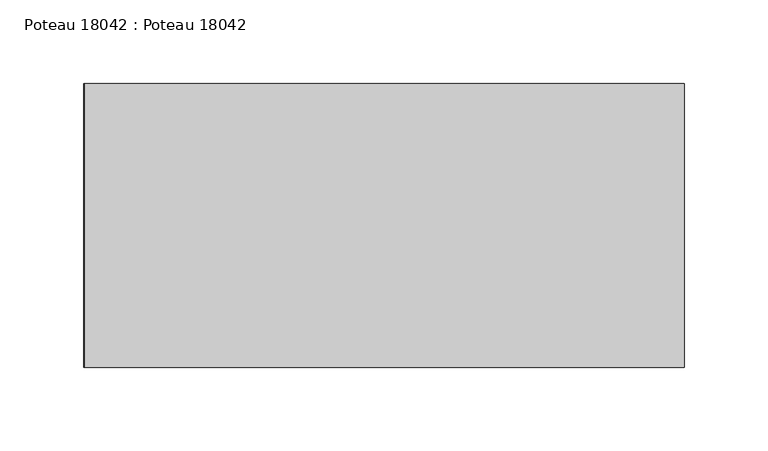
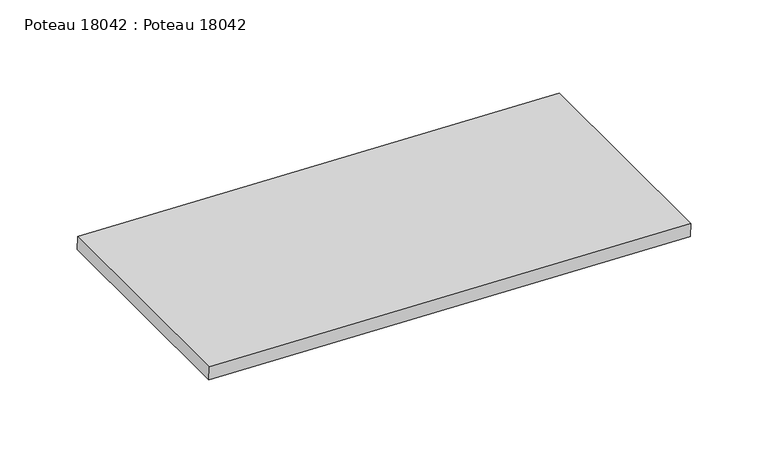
"""IFC4 building model written with IfcOpenShell, lengths in millimetres: beam geometry, Poteau 18042 : Poteau 18042."""

from ifc_helpers import new_model, si_unit, frame, origin, place, context, project, spatial, polyline, outline, extrude, source, transform, mapped, element, save


def poteau_18042_poteau_18042_edd5e09e(model_context):
    return source(origin(), model_context, "Body", "SweptSolid", [
        extrude(outline(polyline([(0.0, -359.5280199), (0.0, 0.0), (170.0, 0.0), (170.0, -359.5280199), (0.0, -359.5280199)])), frame((179.6180528, -4215.0, 8017.407245), z_axis=(0.03497858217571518, 0.0, 0.9993880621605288), x_axis=(0.0, -1.0, 0.0)), (0.0, 0.0, 1.0), 10.0),
    ])


if __name__ == "__main__":
    model = new_model("IFC4")
    model_context = context("Model", 3, world=origin())
    ifc_project = project(units=[si_unit("LENGTHUNIT", "METRE", prefix="MILLI")], contexts=[model_context])
    site = spatial("IfcSite", under=ifc_project)
    building = spatial("IfcBuilding", under=site)
    placement = place(None, origin())
    poteau_18042_poteau_18042_shape = poteau_18042_poteau_18042_edd5e09e(model_context)
    element("IfcBeam", 1, ObjectType="Poteau 18042 : Poteau 18042", at=placement, inside=building, context=model_context, shape_type="MappedRepresentation", body=[
        mapped(poteau_18042_poteau_18042_shape, transform((0.0, 0.0, 0.0), x_axis=(1.0, 0.0, 0.0), y_axis=(0.0, 1.0, 0.0), z_axis=(0.0, 0.0, 1.0))),
    ])
    save(model, "model.ifc")
